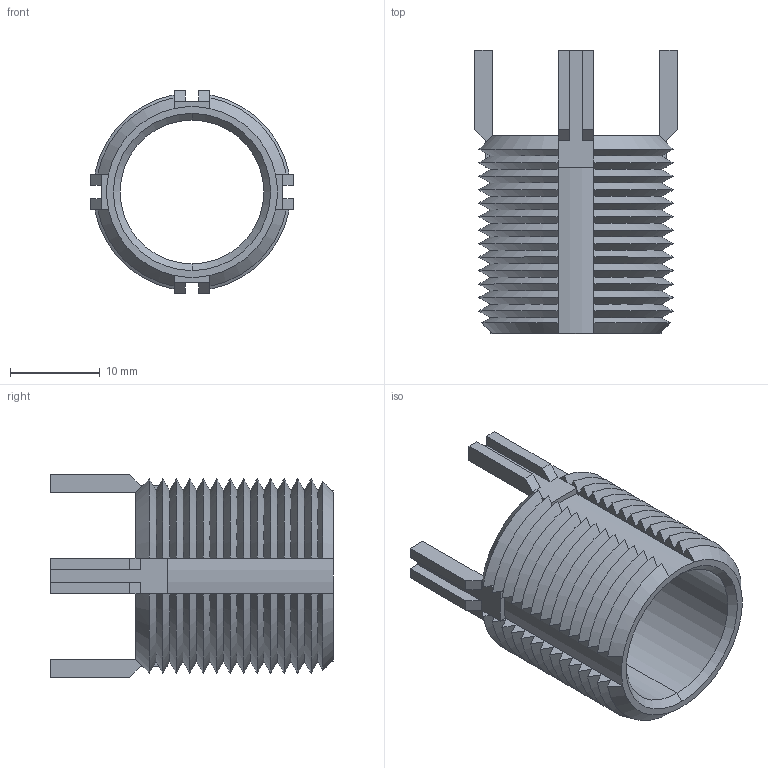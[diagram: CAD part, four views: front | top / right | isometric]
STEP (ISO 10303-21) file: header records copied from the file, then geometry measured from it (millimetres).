
FILE_DESCRIPTION (( 'STEP AP203' ), '1' );
FILE_NAME ('22002.W5711.step', '2023-03-20T19:29:46', ( '' ), ( '' ), 'SwSTEP 2.0', 'SolidWorks 2019', '' );
FILE_SCHEMA (( 'CONFIG_CONTROL_DESIGN' ));
Length unit declared in the file: millimetre
Products named in the file (1): 22002.W5711
Bounding box: 22.57 x 31.5 x 22.57 mm (x, y, z)
Volume: 2905.1 mm3; surface area: 4370.7 mm2
Topology: 1 solids, 1 shells, 212 faces, 570 edges, 360 vertices
Faces by surface type: cone 116, plane 90, cylinder 6
Entity records: 6891 total; most frequent: CARTESIAN_POINT 1935, ORIENTED_EDGE 1140, DIRECTION 864, EDGE_CURVE 570, VERTEX_POINT 360, AXIS2_PLACEMENT_3D 345, B_SPLINE_CURVE_WITH_KNOTS 264, EDGE_LOOP 214
